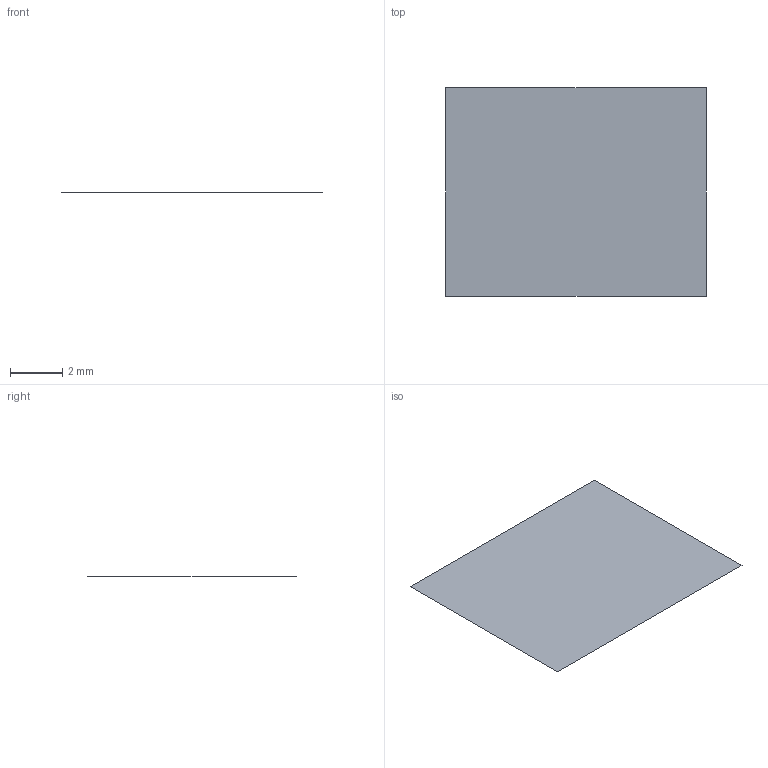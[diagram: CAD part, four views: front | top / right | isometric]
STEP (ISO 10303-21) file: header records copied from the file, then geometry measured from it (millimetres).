
FILE_DESCRIPTION(('BRL-CAD AP214 bounded geometric set fixture'),'2;1');
FILE_NAME('ap214_geometric_surface_set.stp','2026-08-04T00:00:00',('BRL-CAD'),('BRL-CAD'),'','','');
FILE_SCHEMA(('AUTOMOTIVE_DESIGN { 1 0 10303 214 3 1 1 1 }'));
Length unit declared in the file: millimetre
Products named in the file (1): surface_set
Bounding box: 10 x 8 x 0 mm (x, y, z)
Surface area: 80 mm2 (no closed solid volume)
Topology: 0 solids, 0 shells, 1 faces, 4 edges, 4 vertices
Faces by surface type: plane 1
Entity records: 71 total; most frequent: DIRECTION 10, CARTESIAN_POINT 8, VECTOR 8, LINE 8, TRIMMED_CURVE 8, DEFINITIONAL_REPRESENTATION 4, PCURVE 4, COMPOSITE_CURVE_SEGMENT 4
